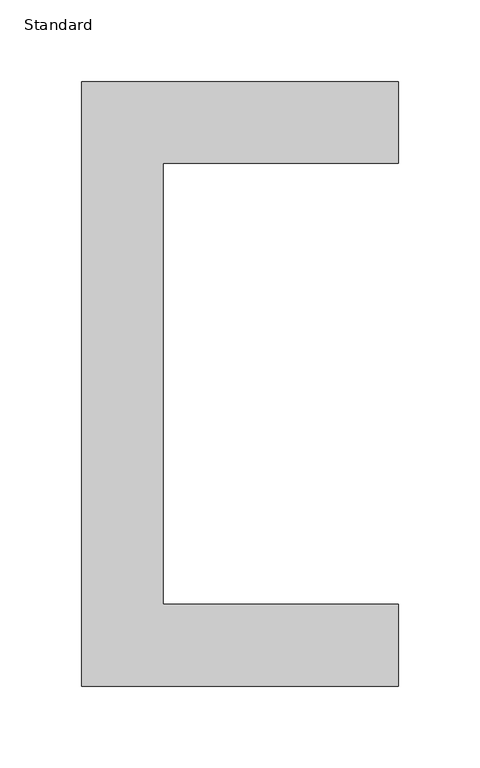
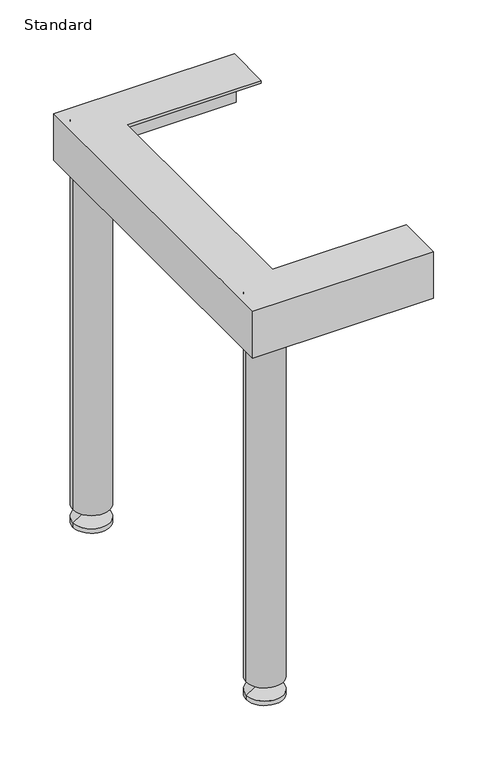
"""IFC4 building model written with IfcOpenShell, lengths in millimetres: furniture geometry, X_Bench-Foot-Duracube-Wall Assembly : Standard."""

from ifc_helpers import new_model, si_unit, point, frame, frame_2d, origin, place, context, project, spatial, polyline, circle_curve, trimmed, segment, composite_curve, outline, extrude, faceted_brep, source, transform, mapped, element, save
from ifc_brep_helpers import plane_surface, cylinder_surface, revolved_surface, advanced_brep


def standard_2dcb62da(model_context):
    return source(origin(), model_context, "Body", "SolidModel", [
        advanced_brep(
        [(44.9503264, -23.75, 20.0), (36.9503264, -23.75, 20.0), (40.9503264, -23.75, 20.0), (44.9503264, -23.75, 15.0), (36.9503264, -23.75, 15.0), (60.9503264, -23.75, 5.0), (20.9503264, -23.75, 5.0), (60.9503264, -23.75, 0.0), (20.9503264, -23.75, 0.0), (40.9503264, -23.75, 0.0)],
        [
            (0, 1, circle_curve(frame((40.9503264, -23.75, 20.0), z_axis=(0.0, 0.0, 1.0), x_axis=(-1.0, 0.0, 0.0)), 4.0)),
            (1, 2),
            (2, 0),
            (1, 0, circle_curve(frame((40.9503264, -23.75, 20.0), z_axis=(0.0, 0.0, 1.0), x_axis=(-1.0, 0.0, 0.0)), 4.0)),
            (3, 4, circle_curve(frame((40.9503264, -23.75, 15.0), z_axis=(0.0, 0.0, 1.0), x_axis=(-1.0, 0.0, 0.0)), 4.0)),
            (4, 1),
            (0, 3),
            (4, 3, circle_curve(frame((40.9503264, -23.75, 15.0), z_axis=(0.0, 0.0, 1.0), x_axis=(-1.0, 0.0, 0.0)), 4.0)),
            (5, 6, circle_curve(frame((40.9503264, -23.75, 5.0), z_axis=(0.0, 0.0, 1.0), x_axis=(-1.0, 0.0, 0.0)), 20.0)),
            (6, 4),
            (3, 5),
            (6, 5, circle_curve(frame((40.9503264, -23.75, 5.0), z_axis=(0.0, 0.0, 1.0), x_axis=(-1.0, 0.0, 0.0)), 20.0)),
            (7, 8, circle_curve(frame((40.9503264, -23.75, 0.0), z_axis=(0.0, 0.0, 1.0), x_axis=(-1.0, 0.0, 0.0)), 20.0)),
            (8, 6),
            (5, 7),
            (8, 7, circle_curve(frame((40.9503264, -23.75, 0.0), z_axis=(0.0, 0.0, 1.0), x_axis=(-1.0, 0.0, 0.0)), 20.0)),
            (9, 8),
            (7, 9),
        ],
        [
            plane_surface(frame((40.9503264, -23.75, 20.0), z_axis=(0.0, 0.0, 1.0), x_axis=(-1.0, 0.0, 0.0))),
            cylinder_surface(frame((40.9503264, -23.75, 0.0), z_axis=(0.0, 0.0, -1.0), x_axis=(-1.0, 0.0, 0.0)), 4.0),
            revolved_surface(polyline([(36.9503264, -23.75, 15.0), (20.9503264, -23.75, 5.0)]), (40.9503264, -23.75, 0.0), (0.0, 0.0, -1.0)),
            cylinder_surface(frame((40.9503264, -23.75, 0.0), z_axis=(0.0, 0.0, -1.0), x_axis=(-1.0, 0.0, 0.0)), 20.0),
            plane_surface(frame((40.9503264, -23.75, 0.0), z_axis=(0.0, 0.0, -1.0), x_axis=(-1.0, 0.0, 0.0))),
        ],
        [
            (0, [[1, 2, 3]]),
            (0, [[4, -3, -2]]),
            (1, [[5, 6, -1, 7]]),
            (1, [[8, -7, -4, -6]]),
            (2, [[9, 10, -5, 11]]),
            (2, [[12, -11, -8, -10]]),
            (3, [[13, 14, -9, 15]]),
            (3, [[16, -15, -12, -14]]),
            (4, [[17, -13, 18]]),
            (4, [[-18, -16, -17]]),
        ],
    ),
        advanced_brep(
        [(44.9503264, -346.25, 20.0), (36.9503264, -346.25, 20.0), (40.9503264, -346.25, 20.0), (44.9503264, -346.25, 15.0), (36.9503264, -346.25, 15.0), (60.9503264, -346.25, 5.0), (20.9503264, -346.25, 5.0), (60.9503264, -346.25, 0.0), (20.9503264, -346.25, 0.0), (40.9503264, -346.25, 0.0)],
        [
            (0, 1, circle_curve(frame((40.9503264, -346.25, 20.0), z_axis=(0.0, 0.0, 1.0), x_axis=(-1.0, 0.0, 0.0)), 4.0)),
            (1, 2),
            (2, 0),
            (1, 0, circle_curve(frame((40.9503264, -346.25, 20.0), z_axis=(0.0, 0.0, 1.0), x_axis=(-1.0, 0.0, 0.0)), 4.0)),
            (3, 4, circle_curve(frame((40.9503264, -346.25, 15.0), z_axis=(0.0, 0.0, 1.0), x_axis=(-1.0, 0.0, 0.0)), 4.0)),
            (4, 1),
            (0, 3),
            (4, 3, circle_curve(frame((40.9503264, -346.25, 15.0), z_axis=(0.0, 0.0, 1.0), x_axis=(-1.0, 0.0, 0.0)), 4.0)),
            (5, 6, circle_curve(frame((40.9503264, -346.25, 5.0), z_axis=(0.0, 0.0, 1.0), x_axis=(-1.0, 0.0, 0.0)), 20.0)),
            (6, 4),
            (3, 5),
            (6, 5, circle_curve(frame((40.9503264, -346.25, 5.0), z_axis=(0.0, 0.0, 1.0), x_axis=(-1.0, 0.0, 0.0)), 20.0)),
            (7, 8, circle_curve(frame((40.9503264, -346.25, 0.0), z_axis=(0.0, 0.0, 1.0), x_axis=(-1.0, 0.0, 0.0)), 20.0)),
            (8, 6),
            (5, 7),
            (8, 7, circle_curve(frame((40.9503264, -346.25, 0.0), z_axis=(0.0, 0.0, 1.0), x_axis=(-1.0, 0.0, 0.0)), 20.0)),
            (9, 8),
            (7, 9),
        ],
        [
            plane_surface(frame((40.9503264, -346.25, 20.0), z_axis=(0.0, 0.0, 1.0), x_axis=(-1.0, 0.0, 0.0))),
            cylinder_surface(frame((40.9503264, -346.25, 0.0), z_axis=(0.0, 0.0, -1.0), x_axis=(-1.0, 0.0, 0.0)), 4.0),
            revolved_surface(polyline([(36.9503264, -346.25, 15.0), (20.9503264, -346.25, 5.0)]), (40.9503264, -346.25, 0.0), (0.0, 0.0, -1.0)),
            cylinder_surface(frame((40.9503264, -346.25, 0.0), z_axis=(0.0, 0.0, -1.0), x_axis=(-1.0, 0.0, 0.0)), 20.0),
            plane_surface(frame((40.9503264, -346.25, 0.0), z_axis=(0.0, 0.0, -1.0), x_axis=(-1.0, 0.0, 0.0))),
        ],
        [
            (0, [[1, 2, 3]]),
            (0, [[4, -3, -2]]),
            (1, [[5, 6, -1, 7]]),
            (1, [[8, -7, -4, -6]]),
            (2, [[9, 10, -5, 11]]),
            (2, [[12, -11, -8, -10]]),
            (3, [[13, 14, -9, 15]]),
            (3, [[16, -15, -12, -14]]),
            (4, [[17, -13, 18]]),
            (4, [[-18, -16, -17]]),
        ],
    ),
        extrude(outline(composite_curve([segment(trimmed(circle_curve(frame_2d((40.9503264, -23.75)), 20.0), [point((20.9503264, -23.75))], [point((60.9503264, -23.75))], False, "CARTESIAN"), True, "CONTINUOUS"), segment(trimmed(circle_curve(frame_2d((40.9503264, -23.75)), 20.0), [point((60.9503264, -23.75))], [point((20.9503264, -23.75))], False, "CARTESIAN"), True, "CONTINUOUS")], self_intersect=False)), frame((0.0, 0.0, 20.0), z_axis=(0.0, 0.0, 1.0), x_axis=(1.0, 0.0, 0.0)), (0.0, 0.0, 1.0), 434.0),
        extrude(outline(composite_curve([segment(trimmed(circle_curve(frame_2d((40.9503264, -346.25)), 20.0), [point((20.9503264, -346.25))], [point((60.9503264, -346.25))], False, "CARTESIAN"), True, "CONTINUOUS"), segment(trimmed(circle_curve(frame_2d((40.9503264, -346.25)), 20.0), [point((60.9503264, -346.25))], [point((20.9503264, -346.25))], False, "CARTESIAN"), True, "CONTINUOUS")], self_intersect=False)), frame((0.0, 0.0, 20.0), z_axis=(0.0, 0.0, 1.0), x_axis=(1.0, 0.0, 0.0)), (0.0, 0.0, 1.0), 434.0),
        faceted_brep([(208.2003264, -370.0, 404.0), (208.2003264, -367.0, 404.0), (208.2003264, -367.0, 454.0), (208.2003264, -320.0, 454.0), (208.2003264, -320.0, 457.0), (208.2003264, -370.0, 457.0), (14.2003264, -370.0, 404.0), (14.2003264, 0.0, 404.0), (208.2003264, 0.0, 404.0), (208.2003264, -3.0, 404.0), (17.2003264, -3.0, 404.0), (17.2003264, -367.0, 404.0), (17.2003264, -367.0, 454.0), (17.2003264, -3.0, 454.0), (208.2003264, -3.0, 454.0), (208.2003264, -50.0, 454.0), (64.2003264, -50.0, 454.0), (64.2003264, -320.0, 454.0), (64.2003264, -320.0, 457.0), (64.2003264, -50.0, 457.0), (208.2003264, -50.0, 457.0), (208.2003264, 0.0, 457.0), (14.2003264, 0.0, 457.0), (14.2003264, -370.0, 457.0)], [[[0, 1, 2, 3, 4, 5]], [[1, 0, 6, 7, 8, 9, 10, 11]], [[2, 1, 11, 12]], [[3, 2, 12, 13, 14, 15, 16, 17]], [[4, 3, 17, 18]], [[5, 4, 18, 19, 20, 21, 22, 23]], [[0, 5, 23, 6]], [[6, 23, 22, 7]], [[7, 22, 21, 8]], [[8, 21, 20, 15, 14, 9]], [[13, 10, 9, 14]], [[12, 11, 10, 13]], [[19, 16, 15, 20]], [[18, 17, 16, 19]]]),
    ])


if __name__ == "__main__":
    model = new_model("IFC4")
    model_context = context("Model", 3, world=origin())
    ifc_project = project(units=[si_unit("LENGTHUNIT", "METRE", prefix="MILLI")], contexts=[model_context])
    site = spatial("IfcSite", under=ifc_project)
    building = spatial("IfcBuilding", under=site)
    placement = place(None, origin())
    standard_shape = standard_2dcb62da(model_context)
    element("IfcFurniture", 1, ObjectType="X_Bench-Foot-Duracube-Wall Assembly : Standard", at=placement, inside=building, context=model_context, shape_type="MappedRepresentation", body=[
        mapped(standard_shape, transform((0.0, 0.0, 0.0), x_axis=(1.0, 0.0, 0.0), y_axis=(0.0, 1.0, 0.0), z_axis=(0.0, 0.0, 1.0))),
    ])
    save(model, "model.ifc")
